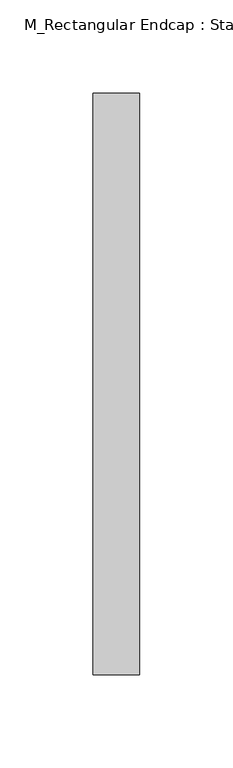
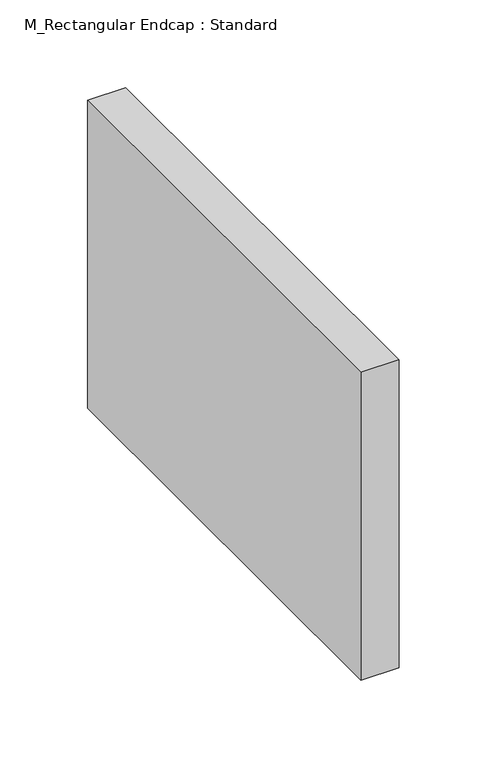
"""IFC4 building model written with IfcOpenShell, lengths in millimetres: duct fitting geometry, M_Rectangular Endcap : Standard."""

from ifc_helpers import new_model, si_unit, frame, origin, place, context, project, spatial, polyline, outline, extrude, source, transform, mapped, element, save


def m_rectangular_endcap_standard_b158c805(model_context):
    return source(origin(), model_context, "Body", "SweptSolid", [
        extrude(outline(polyline([(0.0, -155.9375), (0.0, 155.9375), (25.0, 155.9375), (25.0, -155.9375), (0.0, -155.9375)])), frame((0.0, 0.0, -107.1375), z_axis=(0.0, 0.0, 1.0), x_axis=(1.0, 0.0, 0.0)), (0.0, 0.0, 1.0), 214.275),
    ])


if __name__ == "__main__":
    model = new_model("IFC4")
    model_context = context("Model", 3, world=origin())
    ifc_project = project(units=[si_unit("LENGTHUNIT", "METRE", prefix="MILLI")], contexts=[model_context])
    site = spatial("IfcSite", under=ifc_project)
    building = spatial("IfcBuilding", under=site)
    placement = place(None, origin())
    m_rectangular_endcap_standard_shape = m_rectangular_endcap_standard_b158c805(model_context)
    element("IfcDuctFitting", 1, ObjectType="M_Rectangular Endcap : Standard", at=placement, inside=building, context=model_context, shape_type="MappedRepresentation", body=[
        mapped(m_rectangular_endcap_standard_shape, transform((0.0, 0.0, 0.0), x_axis=(1.0, 0.0, 0.0), y_axis=(0.0, 1.0, 0.0), z_axis=(0.0, 0.0, 1.0))),
    ])
    save(model, "model.ifc")
